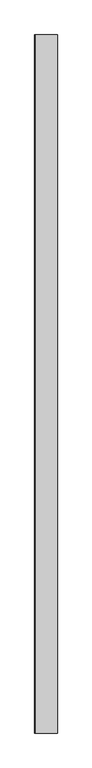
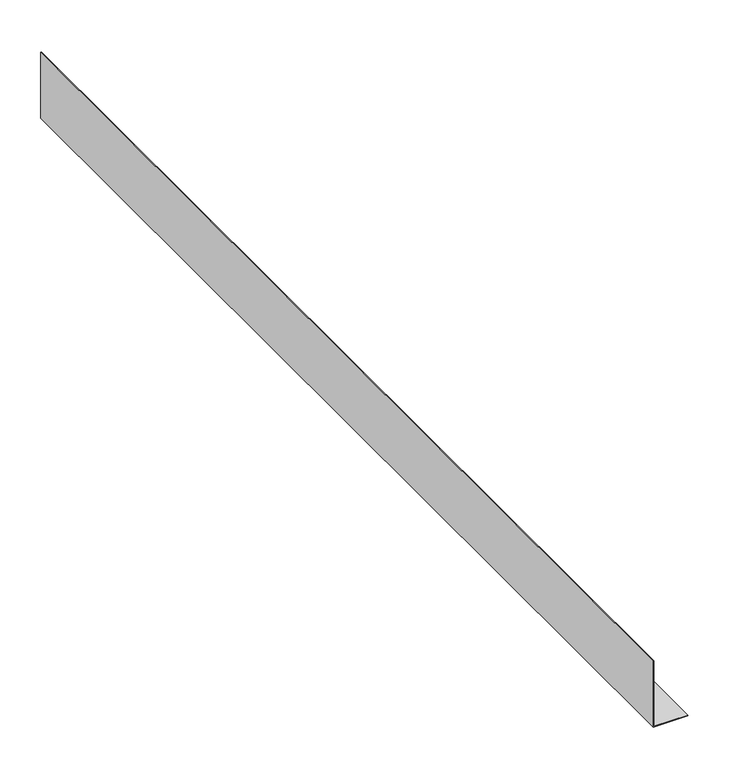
"""IFC4 building model written with IfcOpenShell, lengths in millimetres: proxy geometry, Amphibia Pressure Corner 270°1 : Amphibia Pressure Corner 270°."""

import ifcopenshell
import ifcopenshell.guid

model = None  # the IFC model being written
_history = None  # IfcOwnerHistory: only IFC2X3 demands one
_inside = {}  # id of a spatial element -> (the spatial element, [elements in it])
_under = {}  # id of a project, library or spatial element -> (it, [spatial elements below it])
_declared = {}  # id of a project -> (the project, [libraries it declares])
_typed = {}  # id of a type object -> (the type object, [elements of that type])
_made_of = {}  # id of a material, layer set ... -> (it, [elements and type objects made of it])


def new_model(schema):
    """Start an empty IFC model of exactly this schema.

    Asked for "IFC4X3", IfcOpenShell would pick the latest addendum, in which some entities
    have other attributes; the version numbers below select the first issue.
    IFC2X3 requires an IfcOwnerHistory on every rooted entity: one is made here for all.
    """
    global model, _history
    if schema == "IFC4X3":
        model = ifcopenshell.file(schema_version=(4, 3, 0, 0))
    else:
        model = ifcopenshell.file(schema=schema)
    _inside.clear()
    _under.clear()
    _declared.clear()
    _typed.clear()
    _made_of.clear()
    _history = None
    if model.schema == "IFC2X3":
        org = make("IfcOrganization", Name="unknown")
        user = make(
            "IfcPersonAndOrganization",
            ThePerson=make("IfcPerson", FamilyName="unknown"),
            TheOrganization=org,
        )
        app = make(
            "IfcApplication",
            ApplicationDeveloper=org,
            Version="unknown",
            ApplicationFullName="unknown",
            ApplicationIdentifier="unknown",
        )
        _history = make(
            "IfcOwnerHistory",
            OwningUser=user,
            OwningApplication=app,
            ChangeAction="ADDED",
            CreationDate=0,
        )
    return model


def make(cls, **values):
    """One entity of the class cls with the attributes given. An attribute that is None is left unset."""
    return model.create_entity(
        cls, **{name: value for name, value in values.items() if value is not None}
    )


def rooted(cls, **values):
    """An entity with a GlobalId (a new one), such as an element, a storey or a relation."""
    return make(cls, GlobalId=ifcopenshell.guid.new(), OwnerHistory=_history, **values)


def si_unit(unit_type, name, prefix=None):
    """IfcSIUnit, for example si_unit("LENGTHUNIT", "METRE", prefix="MILLI")."""
    return make("IfcSIUnit", UnitType=unit_type, Prefix=prefix, Name=name)


def assignment(units):
    """IfcUnitAssignment: the units of a project."""
    return None if units is None else make("IfcUnitAssignment", Units=units)


def point(xyz):
    """IfcCartesianPoint."""
    return None if xyz is None else make("IfcCartesianPoint", Coordinates=xyz)


def direction(xyz):
    """IfcDirection."""
    return None if xyz is None else make("IfcDirection", DirectionRatios=xyz)


def frame(location, z_axis=None, x_axis=None):
    """IfcAxis2Placement3D, a coordinate frame: its origin and axes. An axis left out is left unset."""
    return make(
        "IfcAxis2Placement3D",
        Location=point(location),
        Axis=direction(z_axis),
        RefDirection=direction(x_axis),
    )


def origin():
    """The frame at (0, 0, 0) with its axes left unset."""
    return frame((0.0, 0.0, 0.0))


def place(relative_to, where):
    """IfcLocalPlacement: puts the frame where relative to a parent placement (None: the world)."""
    return make(
        "IfcLocalPlacement", PlacementRelTo=relative_to, RelativePlacement=where
    )


def context(
    kind, dimensions, precision=None, world=None, true_north=None, identifier=None
):
    """IfcGeometricRepresentationContext, for example the 3D "Model" context."""
    return make(
        "IfcGeometricRepresentationContext",
        ContextIdentifier=identifier,
        ContextType=kind,
        CoordinateSpaceDimension=dimensions,
        Precision=precision,
        WorldCoordinateSystem=world,
        TrueNorth=true_north,
    )


def project(units=None, contexts=None):
    """IfcProject with its units and contexts."""
    return rooted(
        "IfcProject",
        Name="project",
        RepresentationContexts=contexts,
        UnitsInContext=assignment(units),
    )


def spatial(cls, under=None, at=None, **own):
    """A site, building, storey or space (cls), placed at a placement, below another one or the project."""
    s = rooted(cls, ObjectPlacement=at, **own)
    if under is not None:
        _under.setdefault(under.id(), (under, []))[1].append(s)
    return s


def polyline(points):
    """IfcPolyline through the points."""
    return make("IfcPolyline", Points=[point(p) for p in points])


def outline(outer, holes=None, kind="AREA"):
    """IfcArbitraryClosedProfileDef: a profile drawn as a closed curve; with holes, ...WithVoids."""
    if holes is None:
        return make("IfcArbitraryClosedProfileDef", ProfileType=kind, OuterCurve=outer)
    return make(
        "IfcArbitraryProfileDefWithVoids",
        ProfileType=kind,
        OuterCurve=outer,
        InnerCurves=holes,
    )


def extrude(swept, where, along, depth):
    """IfcExtrudedAreaSolid: the profile swept, set in the frame where, extruded along a direction by depth."""
    return make(
        "IfcExtrudedAreaSolid",
        SweptArea=swept,
        Position=where,
        ExtrudedDirection=direction(along),
        Depth=depth,
    )


def shape(context_of_items, identifier, shape_type, items):
    """IfcShapeRepresentation: the items that make up one representation, for example the "Body"."""
    return make(
        "IfcShapeRepresentation",
        ContextOfItems=context_of_items,
        RepresentationIdentifier=identifier,
        RepresentationType=shape_type,
        Items=items,
    )


def source(mapping_origin, context_of_items, identifier, shape_type, items):
    """IfcRepresentationMap: a shape defined once, which mapped items show again and again."""
    return make(
        "IfcRepresentationMap",
        MappingOrigin=mapping_origin,
        MappedRepresentation=shape(context_of_items, identifier, shape_type, items),
    )


def transform(
    local_origin,
    x_axis=None,
    y_axis=None,
    z_axis=None,
    scale=None,
    scale2=None,
    scale3=None,
    uniform=True,
):
    """IfcCartesianTransformationOperator3D, or its non-uniform kind. x_axis, y_axis, z_axis: its Axis1, 2, 3."""
    if uniform:
        return make(
            "IfcCartesianTransformationOperator3D",
            Axis1=direction(x_axis),
            Axis2=direction(y_axis),
            LocalOrigin=point(local_origin),
            Scale=scale,
            Axis3=direction(z_axis),
        )
    return make(
        "IfcCartesianTransformationOperator3DnonUniform",
        Axis1=direction(x_axis),
        Axis2=direction(y_axis),
        LocalOrigin=point(local_origin),
        Scale=scale,
        Axis3=direction(z_axis),
        Scale2=scale2,
        Scale3=scale3,
    )


def mapped(mapping_source, mapping_target):
    """IfcMappedItem: shows the shape of a source again, moved by a transform."""
    return make(
        "IfcMappedItem", MappingSource=mapping_source, MappingTarget=mapping_target
    )


def made_of(thing, what):
    """Note that an element or type object is made of a material, layer set ...; save() writes the relation."""
    if what is not None:
        _made_of.setdefault(what.id(), (what, []))[1].append(thing)
    return thing


def element(
    cls,
    number,
    at=None,
    inside=None,
    cuts=None,
    type_object=None,
    material=None,
    context=None,
    identifier="Body",
    shape_type=None,
    held_by="IfcProductDefinitionShape",
    body=None,
    shapes=None,
    **own,
):
    """One element of the class cls, such as IfcWall. Its Tag is "e" and its number.

    at: its placement. inside: the storey or other place that contains it. cuts: it is an
    opening in that element (IfcRelVoidsElement). A single representation is given by context,
    identifier, shape_type and body (its items); several are given by shapes. held_by: the class
    of the entity that holds the representations. save() writes the other relations.
    """
    e = rooted(cls, Tag="e%d" % number, ObjectPlacement=at, **own)
    if body is not None:
        shapes = [shape(context, identifier, shape_type, body)]
    if shapes is not None:
        e.Representation = make(held_by, Representations=shapes)
    if inside is not None:
        _inside.setdefault(inside.id(), (inside, []))[1].append(e)
    if cuts is not None:
        rooted(
            "IfcRelVoidsElement", RelatingBuildingElement=cuts, RelatedOpeningElement=e
        )
    if type_object is not None:
        _typed.setdefault(type_object.id(), (type_object, []))[1].append(e)
    return made_of(e, material)


def aggregate(whole, parts):
    """IfcRelAggregates: a whole, such as a stair, and the parts it consists of."""
    return rooted("IfcRelAggregates", RelatingObject=whole, RelatedObjects=parts)


def save(model, path):
    """Write the relations noted so far, then the file.

    IfcRelAggregates (storeys below a building ...), IfcRelContainedInSpatialStructure (elements
    in a storey), IfcRelDefinesByType, IfcRelAssociatesMaterial and IfcRelDeclares: one each for
    every whole, place, type object, material and project.
    """
    for whole, parts in _under.values():
        aggregate(whole, parts)
    for where, things in _inside.values():
        rooted(
            "IfcRelContainedInSpatialStructure",
            RelatedElements=things,
            RelatingStructure=where,
        )
    for kind, things in _typed.values():
        rooted("IfcRelDefinesByType", RelatedObjects=things, RelatingType=kind)
    for what, things in _made_of.values():
        rooted("IfcRelAssociatesMaterial", RelatedObjects=things, RelatingMaterial=what)
    for by, libraries in _declared.values():
        rooted("IfcRelDeclares", RelatingContext=by, RelatedDefinitions=libraries)
    model.write(path)


def generic_models_0eb552b0(model_context):
    return source(origin(), model_context, "Body", "SweptSolid", [
        extrude(outline(polyline([(98.776202, 2270.1043175), (98.776202, 2269.1043175), (0.095003, 2269.1043175), (0.095003, 2317.8295895), (1.095003, 2317.8295895), (1.095003, 2270.1043175), (98.776202, 2270.1043175)])), frame((0.0, -1354.1299805, 0.0), z_axis=(0.0, 1.0, 0.0), x_axis=(0.0, 0.0, 1.0)), (0.0, 0.0, 1.0), 1500.0),
    ])


if __name__ == "__main__":
    model = new_model("IFC4")
    model_context = context("Model", 3, world=origin())
    ifc_project = project(units=[si_unit("LENGTHUNIT", "METRE", prefix="MILLI")], contexts=[model_context])
    site = spatial("IfcSite", under=ifc_project)
    building = spatial("IfcBuilding", under=site)
    placement = place(None, origin())
    generic_models_shape = generic_models_0eb552b0(model_context)
    element("IfcBuildingElementProxy", 1, Name="Amphibia Pressure Corner 270°1 : Amphibia Pressure Corner 270°", ObjectType="Amphibia Pressure Corner 270°1 : Amphibia Pressure Corner 270°", at=placement, inside=building, context=model_context, shape_type="MappedRepresentation", body=[
        mapped(generic_models_shape, transform((0.0, 0.0, 0.0), x_axis=(1.0, 0.0, 0.0), y_axis=(0.0, 1.0, 0.0), z_axis=(0.0, 0.0, 1.0))),
    ])
    save(model, "model.ifc")
